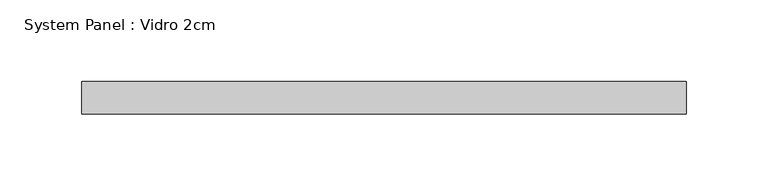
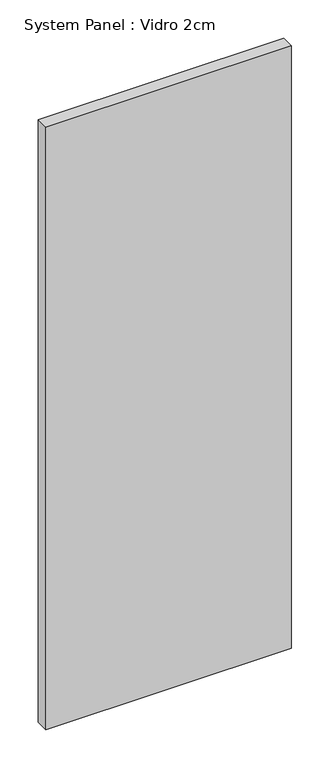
"""IFC4 building model written with IfcOpenShell, lengths in millimetres: plate geometry, System Panel : Vidro 2cm."""

from ifc_helpers import new_model, si_unit, origin, origin_with_axes, place, context, project, spatial, polyline, outline, extrude, source, transform, mapped, element, save


def system_panel_vidro_2cm_0b33bc8a(model_context):
    return source(origin(), model_context, "Body", "SweptSolid", [
        extrude(outline(polyline([(184.9999998, -20.0), (-184.9999998, -20.0), (-184.9999998, 0.0), (184.9999998, 0.0), (184.9999998, -20.0)])), origin_with_axes(), (0.0, 0.0, 1.0), 960.0),
    ])


if __name__ == "__main__":
    model = new_model("IFC4")
    model_context = context("Model", 3, world=origin())
    ifc_project = project(units=[si_unit("LENGTHUNIT", "METRE", prefix="MILLI")], contexts=[model_context])
    site = spatial("IfcSite", under=ifc_project)
    building = spatial("IfcBuilding", under=site)
    placement = place(None, origin())
    system_panel_vidro_2cm_shape = system_panel_vidro_2cm_0b33bc8a(model_context)
    element("IfcPlate", 1, ObjectType="System Panel : Vidro 2cm", at=placement, inside=building, context=model_context, shape_type="MappedRepresentation", body=[
        mapped(system_panel_vidro_2cm_shape, transform((0.0, 0.0, 0.0), x_axis=(1.0, 0.0, 0.0), y_axis=(0.0, 1.0, 0.0), z_axis=(0.0, 0.0, 1.0))),
    ])
    save(model, "model.ifc")
